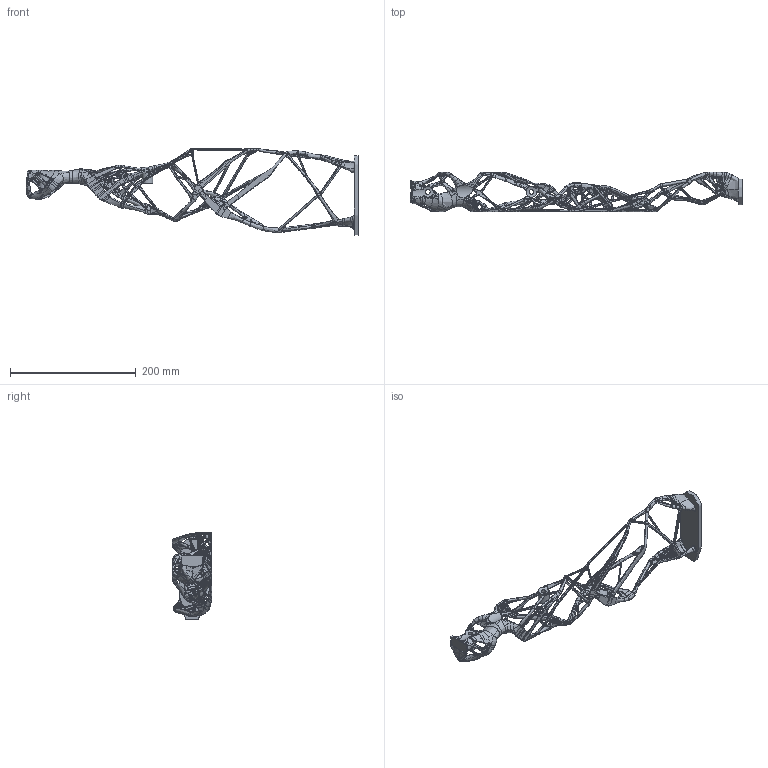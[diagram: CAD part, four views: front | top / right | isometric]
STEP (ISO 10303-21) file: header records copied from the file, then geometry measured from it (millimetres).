
FILE_DESCRIPTION(/* description */ (''),/* implementation_level */ '2;1');
FILE_NAME(/* name */ 'C:/Users/Samuel J. Greear/Pictures/stock-testing/blog1/Generative Test S2 with Pillars v2 v1.step',/* time_stamp */ '2019-11-26T17:49:45-07:00',/* author */ (''),/* organization */ (''),/* preprocessor_version */ 'ST-DEVELOPER v18',/* originating_system */ 'Autodesk Translation Framework v8.12.0.6',/* authorisation */ '');
FILE_SCHEMA (('AUTOMOTIVE_DESIGN { 1 0 10303 214 3 1 1 }'));
Products named in the file (1): Generative Test S2 with Pillars v2
Bounding box: 528.74 x 62.47 x 137.9 mm (x, y, z)
Volume: 146479.5 mm3; surface area: 96404.7 mm2
Topology: 1 solids, 1 shells, 2384 faces, 5937 edges, 3401 vertices
Faces by surface type: bspline 2302, plane 61, cylinder 21
Full cylindrical faces by diameter (mm): 7.62 x2, 17.145 x2
Entity records: 631921 total; most frequent: CARTESIAN_POINT 594783, ORIENTED_EDGE 11874, EDGE_CURVE 5937, B_SPLINE_CURVE_WITH_KNOTS 5883, VERTEX_POINT 3401, EDGE_LOOP 2408, FACE_OUTER_BOUND 2384, ADVANCED_FACE 2384
